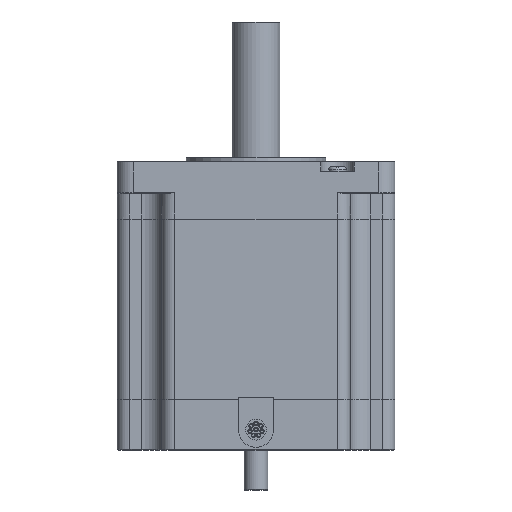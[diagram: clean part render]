
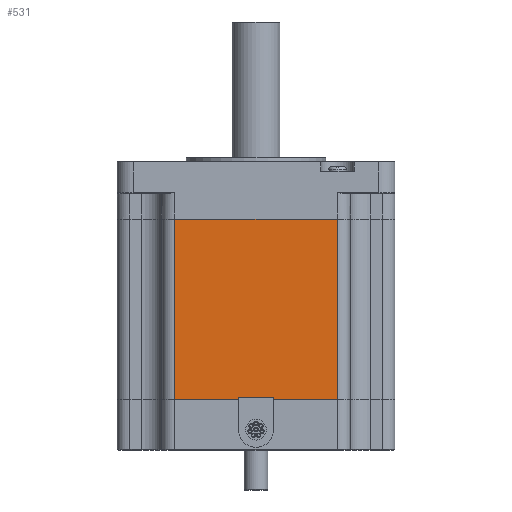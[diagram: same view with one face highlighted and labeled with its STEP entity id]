
A CAD part, front view. The second image highlights one B-rep face of the part: STEP entity #531.
In plain terms, the highlighted planar face has unit normal (0, -1, 0).
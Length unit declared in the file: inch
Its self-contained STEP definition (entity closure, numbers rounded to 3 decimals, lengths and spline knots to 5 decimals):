
#473 = ORIENTED_EDGE ( 'NONE', *, *, #475, .F. ) ;
#475 = EDGE_CURVE ( 'NONE', #532, #1799, #16017, .T. ) ;
#480 = ORIENTED_EDGE ( 'NONE', *, *, #1788, .T. ) ;
#531 = ADVANCED_FACE ( 'NONE', ( #16181 ), #16205, .F. ) ;
#532 = VERTEX_POINT ( 'NONE', #16241 ) ;
#534 = EDGE_CURVE ( 'NONE', #548, #532, #16232, .T. ) ;
#537 = ORIENTED_EDGE ( 'NONE', *, *, #545, .T. ) ;
#542 = ORIENTED_EDGE ( 'NONE', *, *, #534, .F. ) ;
#543 = EDGE_LOOP ( 'NONE', ( #480, #473, #542, #537 ) ) ;
#545 = EDGE_CURVE ( 'NONE', #548, #1710, #16305, .T. ) ;
#548 = VERTEX_POINT ( 'NONE', #16279 ) ;
#1710 = VERTEX_POINT ( 'NONE', #10952 ) ;
#1788 = EDGE_CURVE ( 'NONE', #1710, #1799, #11101, .T. ) ;
#1799 = VERTEX_POINT ( 'NONE', #11142 ) ;
#10952 = CARTESIAN_POINT ( 'NONE',  ( 1.2775, -2.1765, -0.9 ) ) ;
#11091 = DIRECTION ( 'NONE',  ( -1., 0., 0. ) ) ;
#11099 = VECTOR ( 'NONE', #11091, 39.37008 ) ;
#11100 = CARTESIAN_POINT ( 'NONE',  ( 1.2775, -2.1765, -0.9 ) ) ;
#11101 = LINE ( 'NONE', #11100, #11099 ) ;
#11142 = CARTESIAN_POINT ( 'NONE',  ( -1.2775, -2.1765, -0.9 ) ) ;
#16017 = LINE ( 'NONE', #16061, #16060 ) ;
#16059 = DIRECTION ( 'NONE',  ( 0., 0., 1. ) ) ;
#16060 = VECTOR ( 'NONE', #16059, 39.37008 ) ;
#16061 = CARTESIAN_POINT ( 'NONE',  ( -1.2775, -2.1765, -3.727 ) ) ;
#16181 = FACE_OUTER_BOUND ( 'NONE', #543, .T. ) ;
#16205 = PLANE ( 'NONE',  #16208 ) ;
#16208 = AXIS2_PLACEMENT_3D ( 'NONE', #16238, #16237, #16236 ) ;
#16230 = VECTOR ( 'NONE', #16280, 39.37008 ) ;
#16231 = CARTESIAN_POINT ( 'NONE',  ( 1.2775, -2.1765, -3.727 ) ) ;
#16232 = LINE ( 'NONE', #16231, #16230 ) ;
#16236 = DIRECTION ( 'NONE',  ( -1., 0., 0. ) ) ;
#16237 = DIRECTION ( 'NONE',  ( 0., 1., 0. ) ) ;
#16238 = CARTESIAN_POINT ( 'NONE',  ( 1.2775, -2.1765, -3.727 ) ) ;
#16241 = CARTESIAN_POINT ( 'NONE',  ( -1.2775, -2.1765, -3.727 ) ) ;
#16279 = CARTESIAN_POINT ( 'NONE',  ( 1.2775, -2.1765, -3.727 ) ) ;
#16280 = DIRECTION ( 'NONE',  ( -1., 0., 0. ) ) ;
#16302 = DIRECTION ( 'NONE',  ( 0., 0., 1. ) ) ;
#16303 = VECTOR ( 'NONE', #16302, 39.37008 ) ;
#16304 = CARTESIAN_POINT ( 'NONE',  ( 1.2775, -2.1765, -3.727 ) ) ;
#16305 = LINE ( 'NONE', #16304, #16303 ) ;
